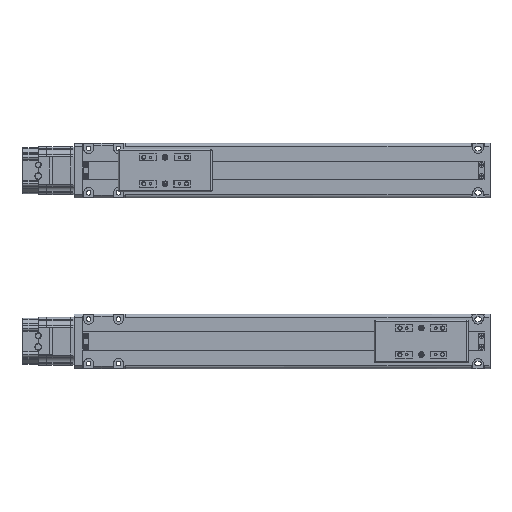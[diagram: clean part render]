
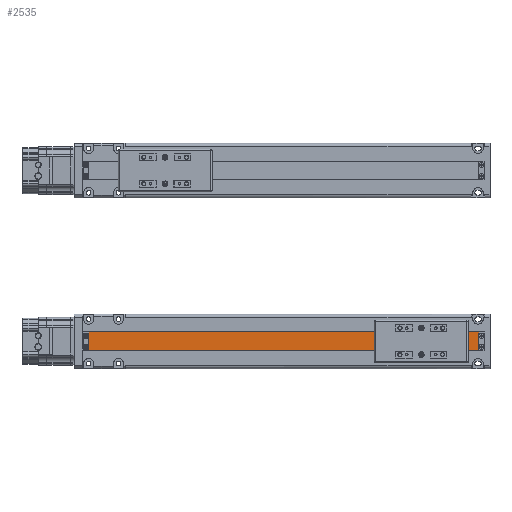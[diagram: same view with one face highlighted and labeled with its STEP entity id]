
A CAD part, top view. The second image highlights one B-rep face of the part: STEP entity #2535.
In plain terms, the highlighted planar face has unit normal (0, 0, 1).
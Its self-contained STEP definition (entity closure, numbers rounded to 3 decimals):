
#2535=ADVANCED_FACE('',(#6343),#6344,.T.);
#6343=FACE_OUTER_BOUND('',#12268,.T.);
#6344=PLANE('',#12269);
#12268=EDGE_LOOP('',(#21055,#21056,#21057,#21058));
#12269=AXIS2_PLACEMENT_3D('',#21059,#21060,#21061);
#21055=ORIENTED_EDGE('',*,*,#33344,.T.);
#21056=ORIENTED_EDGE('',*,*,#35093,.T.);
#21057=ORIENTED_EDGE('',*,*,#35094,.T.);
#21058=ORIENTED_EDGE('',*,*,#35095,.T.);
#21059=CARTESIAN_POINT('',(761.328,-240.0,19.1));
#21060=DIRECTION('',(-0.0,0.,1.0));
#21061=DIRECTION('',(1.0,0.0,0.0));
#33344=EDGE_CURVE('',#39481,#39479,#39482,.T.);
#35093=EDGE_CURVE('',#39479,#42478,#42479,.T.);
#35094=EDGE_CURVE('',#42478,#42480,#42481,.T.);
#35095=EDGE_CURVE('',#42480,#39481,#42482,.T.);
#39479=VERTEX_POINT('',#48355);
#39481=VERTEX_POINT('',#48358);
#39482=LINE('',#48359,#48360);
#42478=VERTEX_POINT('',#52609);
#42479=LINE('',#52610,#52611);
#42480=VERTEX_POINT('',#52612);
#42481=LINE('',#52613,#52614);
#42482=LINE('',#52615,#52616);
#48355=CARTESIAN_POINT('',(726.328,-229.0,19.1));
#48358=CARTESIAN_POINT('',(1183.328,-229.0,19.1));
#48359=CARTESIAN_POINT('',(1189.328,-229.0,19.1));
#48360=VECTOR('',#60656,1000.0);
#52609=CARTESIAN_POINT('',(726.328,-251.0,19.1));
#52610=CARTESIAN_POINT('',(726.328,-240.0,19.1));
#52611=VECTOR('',#62821,1000.0);
#52612=CARTESIAN_POINT('',(1183.328,-251.0,19.1));
#52613=CARTESIAN_POINT('',(721.328,-251.0,19.1));
#52614=VECTOR('',#62822,1000.0);
#52615=CARTESIAN_POINT('',(1183.328,-240.0,19.1));
#52616=VECTOR('',#62823,1000.0);
#60656=DIRECTION('',(-1.0,0.0,0.0));
#62821=DIRECTION('',(0.0,-1.0,0.));
#62822=DIRECTION('',(1.0,0.0,0.0));
#62823=DIRECTION('',(0.0,1.0,0.));
